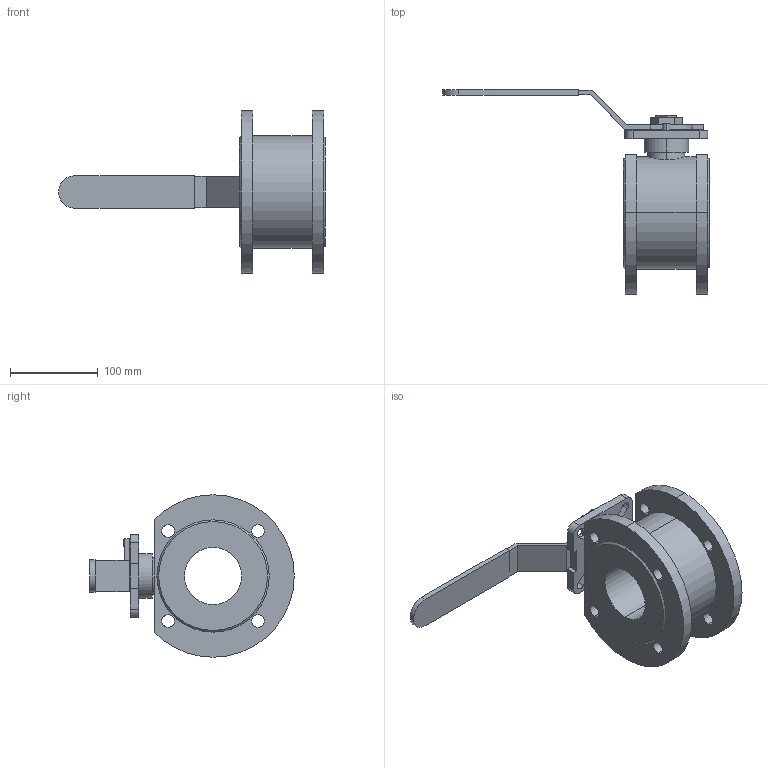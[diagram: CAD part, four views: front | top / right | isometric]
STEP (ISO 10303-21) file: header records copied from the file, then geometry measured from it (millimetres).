
FILE_DESCRIPTION (( 'STEP AP203' ), '1' );
FILE_NAME ('01.622I065X16CP.STEP', '2018-10-23T08:24:38', ( '' ), ( '' ), 'SwSTEP 2.0', 'SolidWorks 2014', '' );
FILE_SCHEMA (( 'CONFIG_CONTROL_DESIGN' ));
Length unit declared in the file: millimetre
Products named in the file (1): 01.622I065X16CP
Bounding box: 304 x 233 x 185 mm (x, y, z)
Volume: 1409436.4 mm3; surface area: 180819.5 mm2
Topology: 1 solids, 1 shells, 122 faces, 321 edges, 214 vertices
Faces by surface type: plane 68, cylinder 50, cone 4
Entity records: 4030 total; most frequent: CARTESIAN_POINT 772, DIRECTION 671, ORIENTED_EDGE 642, EDGE_CURVE 321, AXIS2_PLACEMENT_3D 229, VERTEX_POINT 214, VECTOR 213, LINE 213
